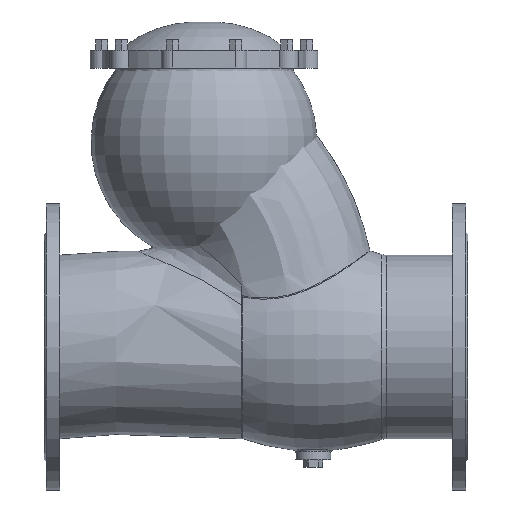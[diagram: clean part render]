
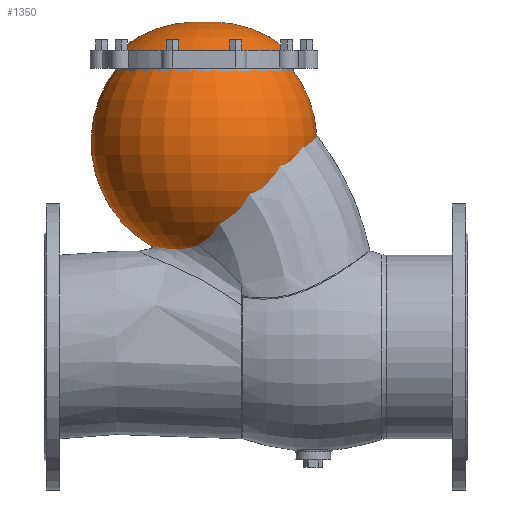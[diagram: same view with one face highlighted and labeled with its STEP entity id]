
A CAD part, front view. The second image highlights one B-rep face of the part: STEP entity #1350.
In plain terms, the highlighted toroidal (fillet/blend) face has major radius 10.1 mm and minor radius 170 mm.
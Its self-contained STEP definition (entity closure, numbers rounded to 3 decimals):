
#1350=ADVANCED_FACE('',(#3763),#3765,.T.);
#3763=FACE_OUTER_BOUND('',#3764,.T.);
#3764=EDGE_LOOP('',(#4766));
#3765=DEGENERATE_TOROIDAL_SURFACE('',#3766,10.1,170.,.T.);
#3766=AXIS2_PLACEMENT_3D('',#3767,#3768,#3769);
#3767=CARTESIAN_POINT('',(-274.582,0.,290.3));
#3768=DIRECTION('',(0.,0.,-1.));
#3769=DIRECTION('',(-1.,0.,0.));
#4766=ORIENTED_EDGE('',*,*,#5799,.T.);
#5799=EDGE_CURVE('',#6413,#6413,#6414,.F.);
#6413=VERTEX_POINT('',#8774);
#6414=CIRCLE('',#8775,120.);
#8774=CARTESIAN_POINT('',(-394.582,0.,420.));
#8775=AXIS2_PLACEMENT_3D('',#8776,#8777,#8778);
#8776=CARTESIAN_POINT('',(-274.582,0.,420.));
#8777=DIRECTION('',(-0.,-0.,-1.));
#8778=DIRECTION('',(-1.,0.,0.));
